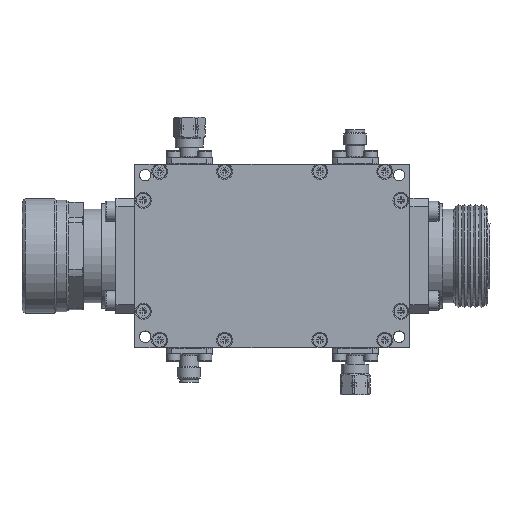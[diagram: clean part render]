
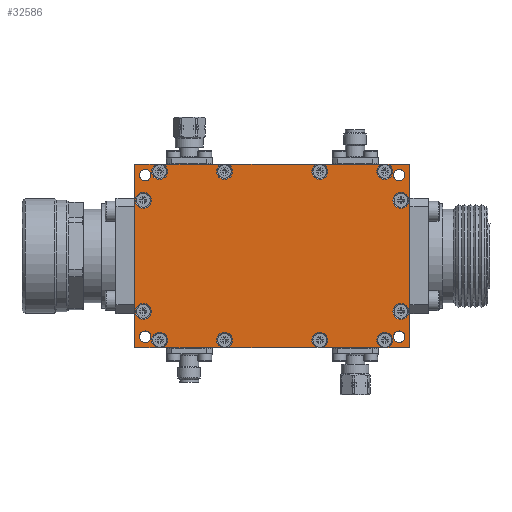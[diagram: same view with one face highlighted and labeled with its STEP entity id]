
A CAD part, top view. The second image highlights one B-rep face of the part: STEP entity #32586.
In plain terms, the highlighted planar face has unit normal (0, 0, 1).
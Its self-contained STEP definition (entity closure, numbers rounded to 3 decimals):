
#868=PLANE('',#34178);
#1317=LINE('',#42907,#3087);
#1329=LINE('',#43043,#3099);
#1330=LINE('',#43051,#3100);
#1331=LINE('',#43059,#3101);
#1332=LINE('',#43067,#3102);
#1333=LINE('',#43075,#3103);
#1334=LINE('',#43093,#3104);
#1335=LINE('',#43101,#3105);
#1336=LINE('',#43109,#3106);
#1337=LINE('',#43117,#3107);
#1338=LINE('',#43125,#3108);
#1348=LINE('',#43145,#3118);
#3087=VECTOR('',#36142,1000.);
#3099=VECTOR('',#36202,1000.);
#3100=VECTOR('',#36203,1000.);
#3101=VECTOR('',#36204,1000.);
#3102=VECTOR('',#36205,1000.);
#3103=VECTOR('',#36206,1000.);
#3104=VECTOR('',#36225,1000.);
#3105=VECTOR('',#36226,1000.);
#3106=VECTOR('',#36227,1000.);
#3107=VECTOR('',#36228,1000.);
#3108=VECTOR('',#36229,1000.);
#3118=VECTOR('',#36241,1000.);
#4841=CIRCLE('',#33734,1.6);
#4843=CIRCLE('',#33737,1.6);
#4845=CIRCLE('',#33740,1.6);
#4847=CIRCLE('',#33743,1.6);
#4889=CIRCLE('',#34163,2.2);
#4890=CIRCLE('',#34165,2.2);
#4891=CIRCLE('',#34167,2.2);
#4892=CIRCLE('',#34169,2.2);
#4893=CIRCLE('',#34171,2.2);
#4894=CIRCLE('',#34173,2.2);
#4895=CIRCLE('',#34175,2.2);
#4896=CIRCLE('',#34177,2.2);
#4897=CIRCLE('',#34179,2.2);
#4898=CIRCLE('',#34180,2.2);
#4899=CIRCLE('',#34181,2.2);
#4900=CIRCLE('',#34182,2.2);
#7965=ORIENTED_EDGE('',*,*,#11954,.F.);
#7966=ORIENTED_EDGE('',*,*,#12997,.T.);
#7967=ORIENTED_EDGE('',*,*,#11952,.F.);
#7968=ORIENTED_EDGE('',*,*,#13000,.T.);
#7969=ORIENTED_EDGE('',*,*,#11950,.F.);
#7970=ORIENTED_EDGE('',*,*,#12999,.T.);
#7971=ORIENTED_EDGE('',*,*,#11948,.F.);
#7972=ORIENTED_EDGE('',*,*,#12998,.T.);
#7973=ORIENTED_EDGE('',*,*,#11946,.F.);
#7974=ORIENTED_EDGE('',*,*,#11893,.F.);
#7975=ORIENTED_EDGE('',*,*,#11937,.F.);
#7976=ORIENTED_EDGE('',*,*,#13001,.T.);
#7977=ORIENTED_EDGE('',*,*,#11935,.F.);
#7978=ORIENTED_EDGE('',*,*,#13004,.T.);
#7979=ORIENTED_EDGE('',*,*,#11933,.F.);
#7980=ORIENTED_EDGE('',*,*,#13003,.T.);
#7981=ORIENTED_EDGE('',*,*,#11931,.F.);
#7982=ORIENTED_EDGE('',*,*,#13002,.T.);
#7983=ORIENTED_EDGE('',*,*,#11929,.F.);
#7984=ORIENTED_EDGE('',*,*,#11964,.F.);
#7985=ORIENTED_EDGE('',*,*,#11904,.F.);
#7986=ORIENTED_EDGE('',*,*,#11898,.F.);
#7987=ORIENTED_EDGE('',*,*,#11900,.F.);
#7988=ORIENTED_EDGE('',*,*,#11902,.F.);
#7989=ORIENTED_EDGE('',*,*,#13005,.T.);
#7990=ORIENTED_EDGE('',*,*,#13006,.T.);
#7991=ORIENTED_EDGE('',*,*,#13007,.T.);
#7992=ORIENTED_EDGE('',*,*,#13008,.T.);
#11893=EDGE_CURVE('',#14939,#14940,#1317,.T.);
#11898=EDGE_CURVE('',#14944,#14944,#4841,.T.);
#11900=EDGE_CURVE('',#14946,#14946,#4843,.T.);
#11902=EDGE_CURVE('',#14948,#14948,#4845,.T.);
#11904=EDGE_CURVE('',#14950,#14950,#4847,.T.);
#11929=EDGE_CURVE('',#14973,#14974,#1329,.T.);
#11931=EDGE_CURVE('',#14975,#14976,#1330,.T.);
#11933=EDGE_CURVE('',#14977,#14978,#1331,.T.);
#11935=EDGE_CURVE('',#14979,#14980,#1332,.T.);
#11937=EDGE_CURVE('',#14981,#14939,#1333,.T.);
#11946=EDGE_CURVE('',#14940,#14990,#1334,.T.);
#11948=EDGE_CURVE('',#14991,#14992,#1335,.T.);
#11950=EDGE_CURVE('',#14993,#14994,#1336,.T.);
#11952=EDGE_CURVE('',#14995,#14996,#1337,.T.);
#11954=EDGE_CURVE('',#14997,#14998,#1338,.T.);
#11964=EDGE_CURVE('',#14998,#14973,#1348,.T.);
#12997=EDGE_CURVE('',#14997,#14996,#4889,.T.);
#12998=EDGE_CURVE('',#14991,#14990,#4890,.T.);
#12999=EDGE_CURVE('',#14993,#14992,#4891,.T.);
#13000=EDGE_CURVE('',#14995,#14994,#4892,.T.);
#13001=EDGE_CURVE('',#14981,#14980,#4893,.T.);
#13002=EDGE_CURVE('',#14975,#14974,#4894,.T.);
#13003=EDGE_CURVE('',#14977,#14976,#4895,.T.);
#13004=EDGE_CURVE('',#14979,#14978,#4896,.T.);
#13005=EDGE_CURVE('',#15703,#15703,#4897,.T.);
#13006=EDGE_CURVE('',#15704,#15704,#4898,.T.);
#13007=EDGE_CURVE('',#15705,#15705,#4899,.T.);
#13008=EDGE_CURVE('',#15706,#15706,#4900,.T.);
#14939=VERTEX_POINT('',#42908);
#14940=VERTEX_POINT('',#42909);
#14944=VERTEX_POINT('',#42919);
#14946=VERTEX_POINT('',#42924);
#14948=VERTEX_POINT('',#42929);
#14950=VERTEX_POINT('',#42934);
#14973=VERTEX_POINT('',#43042);
#14974=VERTEX_POINT('',#43044);
#14975=VERTEX_POINT('',#43050);
#14976=VERTEX_POINT('',#43052);
#14977=VERTEX_POINT('',#43058);
#14978=VERTEX_POINT('',#43060);
#14979=VERTEX_POINT('',#43066);
#14980=VERTEX_POINT('',#43068);
#14981=VERTEX_POINT('',#43074);
#14990=VERTEX_POINT('',#43094);
#14991=VERTEX_POINT('',#43100);
#14992=VERTEX_POINT('',#43102);
#14993=VERTEX_POINT('',#43108);
#14994=VERTEX_POINT('',#43110);
#14995=VERTEX_POINT('',#43116);
#14996=VERTEX_POINT('',#43118);
#14997=VERTEX_POINT('',#43124);
#14998=VERTEX_POINT('',#43126);
#15703=VERTEX_POINT('',#45264);
#15704=VERTEX_POINT('',#45266);
#15705=VERTEX_POINT('',#45268);
#15706=VERTEX_POINT('',#45270);
#17928=EDGE_LOOP('',(#7965,#7966,#7967,#7968,#7969,#7970,#7971,#7972,#7973,
#7974,#7975,#7976,#7977,#7978,#7979,#7980,#7981,#7982,#7983,#7984));
#17929=EDGE_LOOP('',(#7985));
#17930=EDGE_LOOP('',(#7986));
#17931=EDGE_LOOP('',(#7987));
#17932=EDGE_LOOP('',(#7988));
#17933=EDGE_LOOP('',(#7989));
#17934=EDGE_LOOP('',(#7990));
#17935=EDGE_LOOP('',(#7991));
#17936=EDGE_LOOP('',(#7992));
#19962=FACE_BOUND('',#17928,.T.);
#19963=FACE_BOUND('',#17929,.T.);
#19964=FACE_BOUND('',#17930,.T.);
#19965=FACE_BOUND('',#17931,.T.);
#19966=FACE_BOUND('',#17932,.T.);
#19967=FACE_BOUND('',#17933,.T.);
#19968=FACE_BOUND('',#17934,.T.);
#19969=FACE_BOUND('',#17935,.T.);
#19970=FACE_BOUND('',#17936,.T.);
#32586=ADVANCED_FACE('',(#19962,#19963,#19964,#19965,#19966,#19967,#19968,
#19969,#19970),#868,.F.);
#33734=AXIS2_PLACEMENT_3D('',#42918,#36150,#36151);
#33737=AXIS2_PLACEMENT_3D('',#42923,#36156,#36157);
#33740=AXIS2_PLACEMENT_3D('',#42928,#36162,#36163);
#33743=AXIS2_PLACEMENT_3D('',#42933,#36168,#36169);
#34163=AXIS2_PLACEMENT_3D('',#45247,#38044,#38045);
#34165=AXIS2_PLACEMENT_3D('',#45249,#38048,#38049);
#34167=AXIS2_PLACEMENT_3D('',#45251,#38052,#38053);
#34169=AXIS2_PLACEMENT_3D('',#45253,#38056,#38057);
#34171=AXIS2_PLACEMENT_3D('',#45255,#38060,#38061);
#34173=AXIS2_PLACEMENT_3D('',#45257,#38064,#38065);
#34175=AXIS2_PLACEMENT_3D('',#45259,#38068,#38069);
#34177=AXIS2_PLACEMENT_3D('',#45261,#38072,#38073);
#34178=AXIS2_PLACEMENT_3D('',#45262,#38074,#38075);
#34179=AXIS2_PLACEMENT_3D('',#45263,#38076,#38077);
#34180=AXIS2_PLACEMENT_3D('',#45265,#38078,#38079);
#34181=AXIS2_PLACEMENT_3D('',#45267,#38080,#38081);
#34182=AXIS2_PLACEMENT_3D('',#45269,#38082,#38083);
#36142=DIRECTION('',(0.,-1.,0.));
#36150=DIRECTION('',(0.,0.,1.));
#36151=DIRECTION('',(1.,0.,0.));
#36156=DIRECTION('',(0.,0.,1.));
#36157=DIRECTION('',(1.,0.,0.));
#36162=DIRECTION('',(0.,0.,1.));
#36163=DIRECTION('',(1.,0.,0.));
#36168=DIRECTION('',(0.,0.,1.));
#36169=DIRECTION('',(1.,0.,0.));
#36202=DIRECTION('',(1.,0.,0.));
#36203=DIRECTION('',(1.,0.,0.));
#36204=DIRECTION('',(1.,0.,0.));
#36205=DIRECTION('',(1.,0.,0.));
#36206=DIRECTION('',(1.,0.,0.));
#36225=DIRECTION('',(-1.,0.,0.));
#36226=DIRECTION('',(-1.,0.,0.));
#36227=DIRECTION('',(-1.,0.,0.));
#36228=DIRECTION('',(-1.,0.,0.));
#36229=DIRECTION('',(-1.,0.,0.));
#36241=DIRECTION('',(0.,1.,0.));
#38044=DIRECTION('',(0.,0.,-1.));
#38045=DIRECTION('',(0.,1.,0.));
#38048=DIRECTION('',(0.,0.,-1.));
#38049=DIRECTION('',(0.,1.,0.));
#38052=DIRECTION('',(0.,0.,-1.));
#38053=DIRECTION('',(0.,1.,0.));
#38056=DIRECTION('',(0.,0.,-1.));
#38057=DIRECTION('',(0.,1.,0.));
#38060=DIRECTION('',(0.,0.,-1.));
#38061=DIRECTION('',(0.,1.,0.));
#38064=DIRECTION('',(0.,0.,-1.));
#38065=DIRECTION('',(0.,1.,0.));
#38068=DIRECTION('',(0.,0.,-1.));
#38069=DIRECTION('',(0.,1.,0.));
#38072=DIRECTION('',(0.,0.,-1.));
#38073=DIRECTION('',(0.,1.,0.));
#38074=DIRECTION('',(0.,0.,-1.));
#38075=DIRECTION('',(-1.,0.,0.));
#38076=DIRECTION('',(0.,0.,-1.));
#38077=DIRECTION('',(0.,1.,0.));
#38078=DIRECTION('',(0.,0.,-1.));
#38079=DIRECTION('',(0.,1.,0.));
#38080=DIRECTION('',(0.,0.,-1.));
#38081=DIRECTION('',(0.,1.,0.));
#38082=DIRECTION('',(0.,0.,-1.));
#38083=DIRECTION('',(0.,1.,0.));
#42907=CARTESIAN_POINT('',(38.2,25.4,11.));
#42908=CARTESIAN_POINT('',(38.2,25.4,11.));
#42909=CARTESIAN_POINT('',(38.2,-25.4,11.));
#42918=CARTESIAN_POINT('',(35.2,22.4,11.));
#42919=CARTESIAN_POINT('',(36.8,22.4,11.));
#42923=CARTESIAN_POINT('',(35.2,-22.4,11.));
#42924=CARTESIAN_POINT('',(36.8,-22.4,11.));
#42928=CARTESIAN_POINT('',(-35.2,-22.4,11.));
#42929=CARTESIAN_POINT('',(-33.6,-22.4,11.));
#42933=CARTESIAN_POINT('',(-35.2,22.4,11.));
#42934=CARTESIAN_POINT('',(-33.6,22.4,11.));
#43042=CARTESIAN_POINT('',(-38.2,25.4,11.));
#43043=CARTESIAN_POINT('',(-38.2,25.4,11.));
#43044=CARTESIAN_POINT('',(-32.117,25.4,11.));
#43050=CARTESIAN_POINT('',(-30.283,25.4,11.));
#43051=CARTESIAN_POINT('',(-38.2,25.4,11.));
#43052=CARTESIAN_POINT('',(-14.117,25.4,11.));
#43058=CARTESIAN_POINT('',(-12.283,25.4,11.));
#43059=CARTESIAN_POINT('',(-38.2,25.4,11.));
#43060=CARTESIAN_POINT('',(12.283,25.4,11.));
#43066=CARTESIAN_POINT('',(14.117,25.4,11.));
#43067=CARTESIAN_POINT('',(-38.2,25.4,11.));
#43068=CARTESIAN_POINT('',(30.283,25.4,11.));
#43074=CARTESIAN_POINT('',(32.117,25.4,11.));
#43075=CARTESIAN_POINT('',(-38.2,25.4,11.));
#43093=CARTESIAN_POINT('',(38.2,-25.4,11.));
#43094=CARTESIAN_POINT('',(32.117,-25.4,11.));
#43100=CARTESIAN_POINT('',(30.283,-25.4,11.));
#43101=CARTESIAN_POINT('',(38.2,-25.4,11.));
#43102=CARTESIAN_POINT('',(14.117,-25.4,11.));
#43108=CARTESIAN_POINT('',(12.283,-25.4,11.));
#43109=CARTESIAN_POINT('',(38.2,-25.4,11.));
#43110=CARTESIAN_POINT('',(-12.283,-25.4,11.));
#43116=CARTESIAN_POINT('',(-14.117,-25.4,11.));
#43117=CARTESIAN_POINT('',(38.2,-25.4,11.));
#43118=CARTESIAN_POINT('',(-30.283,-25.4,11.));
#43124=CARTESIAN_POINT('',(-32.117,-25.4,11.));
#43125=CARTESIAN_POINT('',(38.2,-25.4,11.));
#43126=CARTESIAN_POINT('',(-38.2,-25.4,11.));
#43145=CARTESIAN_POINT('',(-38.2,-25.4,11.));
#45247=CARTESIAN_POINT('',(-31.2,-23.4,11.));
#45249=CARTESIAN_POINT('',(31.2,-23.4,11.));
#45251=CARTESIAN_POINT('',(13.2,-23.4,11.));
#45253=CARTESIAN_POINT('',(-13.2,-23.4,11.));
#45255=CARTESIAN_POINT('',(31.2,23.4,11.));
#45257=CARTESIAN_POINT('',(-31.2,23.4,11.));
#45259=CARTESIAN_POINT('',(-13.2,23.4,11.));
#45261=CARTESIAN_POINT('',(13.2,23.4,11.));
#45262=CARTESIAN_POINT('',(0.,0.,11.));
#45263=CARTESIAN_POINT('',(-35.7,-15.4,11.));
#45264=CARTESIAN_POINT('',(-35.7,-13.2,11.));
#45265=CARTESIAN_POINT('',(-35.7,15.4,11.));
#45266=CARTESIAN_POINT('',(-35.7,17.6,11.));
#45267=CARTESIAN_POINT('',(35.7,15.4,11.));
#45268=CARTESIAN_POINT('',(35.7,17.6,11.));
#45269=CARTESIAN_POINT('',(35.7,-15.4,11.));
#45270=CARTESIAN_POINT('',(35.7,-13.2,11.));
